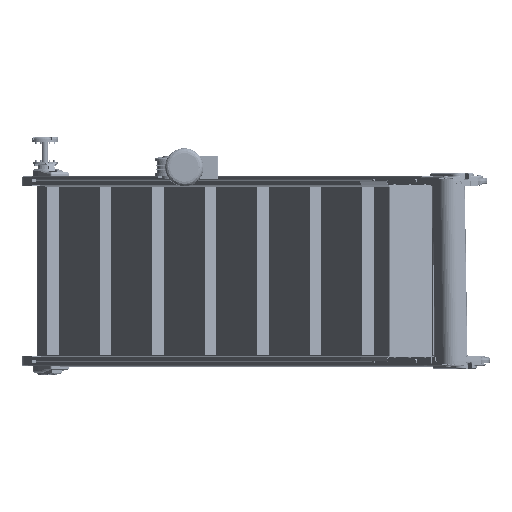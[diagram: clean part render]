
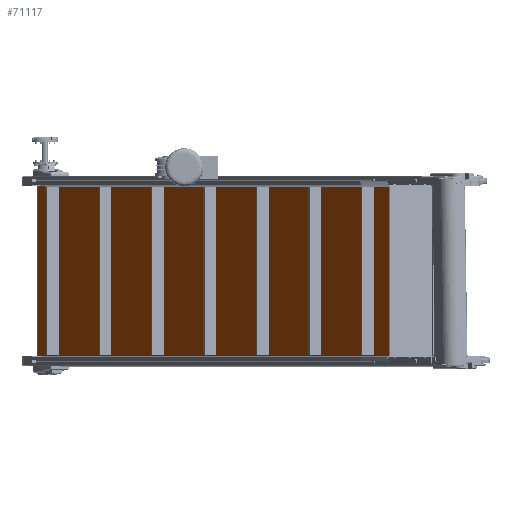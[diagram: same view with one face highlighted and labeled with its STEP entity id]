
A CAD part, left-side view. The second image highlights one B-rep face of the part: STEP entity #71117.
In plain terms, the highlighted planar face has unit normal (-0.423, 0.906, 0).
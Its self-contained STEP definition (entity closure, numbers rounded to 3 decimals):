
#6736 = AXIS2_PLACEMENT_3D ( 'NONE', #186071, #63037, #184931 ) ;
#8791 = CARTESIAN_POINT ( 'NONE',  ( 517.652, 28.696, 296.5 ) ) ;
#19731 = LINE ( 'NONE', #104620, #152831 ) ;
#33616 = CARTESIAN_POINT ( 'NONE',  ( 3345.333, 1347.265, 296.5 ) ) ;
#44179 = LINE ( 'NONE', #33616, #161299 ) ;
#44480 = PLANE ( 'NONE',  #6736 ) ;
#47348 = VERTEX_POINT ( 'NONE', #95200 ) ;
#63037 = DIRECTION ( 'NONE',  ( 0.423, -0.906, 0. ) ) ;
#71117 = ADVANCED_FACE ( 'NONE', ( #118755 ), #44480, .F. ) ;
#75964 = LINE ( 'NONE', #180392, #175291 ) ;
#84964 = ORIENTED_EDGE ( 'NONE', *, *, #207840, .T. ) ;
#88206 = DIRECTION ( 'NONE',  ( -0.906, -0.423, 0. ) ) ;
#88689 = EDGE_LOOP ( 'NONE', ( #115758, #111206, #91740, #84964 ) ) ;
#91422 = VERTEX_POINT ( 'NONE', #210579 ) ;
#91740 = ORIENTED_EDGE ( 'NONE', *, *, #115315, .F. ) ;
#95200 = CARTESIAN_POINT ( 'NONE',  ( 3345.333, 1347.265, 296.5 ) ) ;
#104620 = CARTESIAN_POINT ( 'NONE',  ( 517.652, 28.696, 296.5 ) ) ;
#105763 = DIRECTION ( 'NONE',  ( 0., 0., -1. ) ) ;
#111206 = ORIENTED_EDGE ( 'NONE', *, *, #174692, .F. ) ;
#111259 = CARTESIAN_POINT ( 'NONE',  ( 3345.333, 1347.265, -296.5 ) ) ;
#115315 = EDGE_CURVE ( 'NONE', #47348, #201457, #44179, .T. ) ;
#115758 = ORIENTED_EDGE ( 'NONE', *, *, #228658, .T. ) ;
#116680 = VERTEX_POINT ( 'NONE', #148893 ) ;
#118755 = FACE_OUTER_BOUND ( 'NONE', #88689, .T. ) ;
#141895 = VECTOR ( 'NONE', #185418, 1000. ) ;
#146109 = LINE ( 'NONE', #111259, #141895 ) ;
#148893 = CARTESIAN_POINT ( 'NONE',  ( 517.652, 28.696, -296.5 ) ) ;
#152831 = VECTOR ( 'NONE', #105763, 1000. ) ;
#161299 = VECTOR ( 'NONE', #88206, 1000. ) ;
#161867 = DIRECTION ( 'NONE',  ( 0., 0., -1. ) ) ;
#174692 = EDGE_CURVE ( 'NONE', #201457, #116680, #19731, .T. ) ;
#175291 = VECTOR ( 'NONE', #161867, 1000. ) ;
#180392 = CARTESIAN_POINT ( 'NONE',  ( 3345.333, 1347.265, 296.5 ) ) ;
#184931 = DIRECTION ( 'NONE',  ( 0.906, 0.423, 0. ) ) ;
#185418 = DIRECTION ( 'NONE',  ( -0.906, -0.423, 0. ) ) ;
#186071 = CARTESIAN_POINT ( 'NONE',  ( 3345.333, 1347.265, 296.5 ) ) ;
#201457 = VERTEX_POINT ( 'NONE', #8791 ) ;
#207840 = EDGE_CURVE ( 'NONE', #47348, #91422, #75964, .T. ) ;
#210579 = CARTESIAN_POINT ( 'NONE',  ( 3345.333, 1347.265, -296.5 ) ) ;
#228658 = EDGE_CURVE ( 'NONE', #91422, #116680, #146109, .T. ) ;
